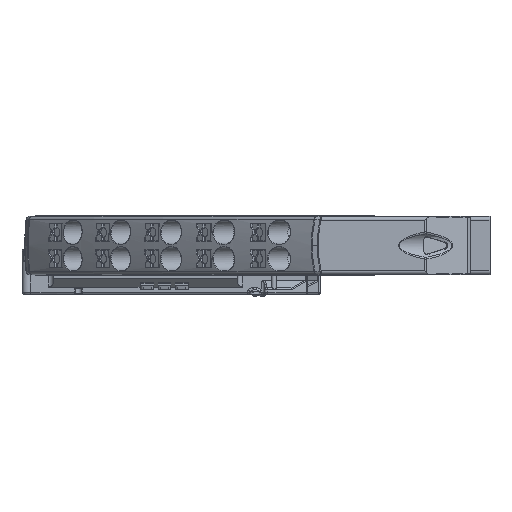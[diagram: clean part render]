
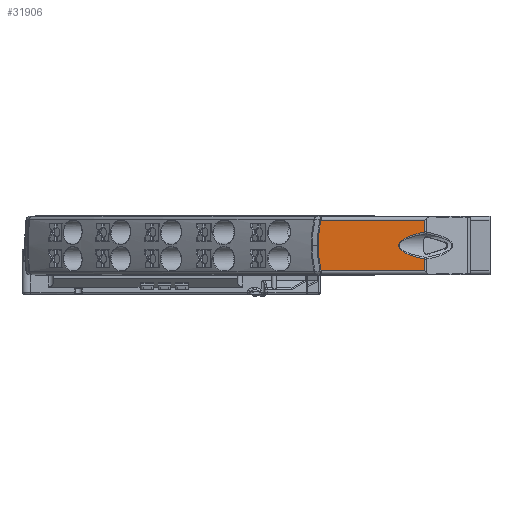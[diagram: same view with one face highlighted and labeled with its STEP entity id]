
A CAD part, left-side view. The second image highlights one B-rep face of the part: STEP entity #31906.
In plain terms, the highlighted planar face has unit normal (-1, 0, 0).
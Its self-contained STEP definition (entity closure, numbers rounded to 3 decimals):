
#733=CARTESIAN_POINT('',(-40.,7.214,-2.88));
#734=CARTESIAN_POINT('',(-40.,7.408,-2.843));
#735=CARTESIAN_POINT('',(-40.,7.779,-2.768));
#736=CARTESIAN_POINT('',(-40.,8.286,-2.654));
#737=CARTESIAN_POINT('',(-40.,8.749,-2.538));
#738=CARTESIAN_POINT('',(-40.,9.172,-2.422));
#739=CARTESIAN_POINT('',(-40.,9.554,-2.307));
#740=CARTESIAN_POINT('',(-40.,9.898,-2.194));
#741=CARTESIAN_POINT('',(-40.,10.209,-2.083));
#742=CARTESIAN_POINT('',(-40.,10.489,-1.974));
#743=CARTESIAN_POINT('',(-40.,10.739,-1.869));
#744=CARTESIAN_POINT('',(-40.,10.964,-1.767));
#745=CARTESIAN_POINT('',(-40.,11.165,-1.668));
#746=CARTESIAN_POINT('',(-40.,11.345,-1.573));
#747=CARTESIAN_POINT('',(-40.,11.505,-1.482));
#748=CARTESIAN_POINT('',(-40.,11.649,-1.394));
#749=CARTESIAN_POINT('',(-40.,11.778,-1.309));
#750=CARTESIAN_POINT('',(-40.,11.893,-1.227));
#751=CARTESIAN_POINT('',(-40.,11.996,-1.149));
#752=CARTESIAN_POINT('',(-40.,12.087,-1.073));
#753=CARTESIAN_POINT('',(-40.,12.169,-1.001));
#754=CARTESIAN_POINT('',(-40.,12.242,-0.931));
#755=CARTESIAN_POINT('',(-40.,12.306,-0.864));
#756=CARTESIAN_POINT('',(-40.,12.364,-0.799));
#757=CARTESIAN_POINT('',(-40.,12.414,-0.736));
#758=CARTESIAN_POINT('',(-40.,12.46,-0.676));
#759=CARTESIAN_POINT('',(-40.,12.5,-0.617));
#760=CARTESIAN_POINT('',(-40.,12.535,-0.56));
#761=CARTESIAN_POINT('',(-40.,12.566,-0.504));
#762=CARTESIAN_POINT('',(-40.,12.593,-0.45));
#763=CARTESIAN_POINT('',(-40.,12.616,-0.397));
#764=CARTESIAN_POINT('',(-40.,12.637,-0.345));
#765=CARTESIAN_POINT('',(-40.,12.653,-0.294));
#766=CARTESIAN_POINT('',(-40.,12.667,-0.244));
#767=CARTESIAN_POINT('',(-40.,12.679,-0.194));
#768=CARTESIAN_POINT('',(-40.,12.687,-0.145));
#769=CARTESIAN_POINT('',(-40.,12.693,-0.096));
#770=CARTESIAN_POINT('',(-40.,12.697,-0.048));
#771=CARTESIAN_POINT('',(-40.,12.698,0.));
#772=CARTESIAN_POINT('',(-40.,12.697,0.048));
#773=CARTESIAN_POINT('',(-40.,12.693,0.097));
#774=CARTESIAN_POINT('',(-40.,12.687,0.145));
#775=CARTESIAN_POINT('',(-40.,12.679,0.195));
#776=CARTESIAN_POINT('',(-40.,12.667,0.244));
#777=CARTESIAN_POINT('',(-40.,12.653,0.294));
#778=CARTESIAN_POINT('',(-40.,12.636,0.345));
#779=CARTESIAN_POINT('',(-40.,12.616,0.397));
#780=CARTESIAN_POINT('',(-40.,12.593,0.45));
#781=CARTESIAN_POINT('',(-40.,12.566,0.505));
#782=CARTESIAN_POINT('',(-40.,12.535,0.56));
#783=CARTESIAN_POINT('',(-40.,12.499,0.618));
#784=CARTESIAN_POINT('',(-40.,12.459,0.677));
#785=CARTESIAN_POINT('',(-40.,12.414,0.737));
#786=CARTESIAN_POINT('',(-40.,12.363,0.8));
#787=CARTESIAN_POINT('',(-40.,12.305,0.865));
#788=CARTESIAN_POINT('',(-40.,12.24,0.932));
#789=CARTESIAN_POINT('',(-40.,12.168,1.001));
#790=CARTESIAN_POINT('',(-40.,12.087,1.074));
#791=CARTESIAN_POINT('',(-40.,11.995,1.149));
#792=CARTESIAN_POINT('',(-40.,11.893,1.227));
#793=CARTESIAN_POINT('',(-40.,11.779,1.308));
#794=CARTESIAN_POINT('',(-40.,11.651,1.393));
#795=CARTESIAN_POINT('',(-40.,11.507,1.481));
#796=CARTESIAN_POINT('',(-40.,11.347,1.572));
#797=CARTESIAN_POINT('',(-40.,11.167,1.667));
#798=CARTESIAN_POINT('',(-40.,10.965,1.766));
#799=CARTESIAN_POINT('',(-40.,10.74,1.868));
#800=CARTESIAN_POINT('',(-40.,10.49,1.974));
#801=CARTESIAN_POINT('',(-40.,10.211,2.082));
#802=CARTESIAN_POINT('',(-40.,9.9,2.193));
#803=CARTESIAN_POINT('',(-40.,9.554,2.307));
#804=CARTESIAN_POINT('',(-40.,9.172,2.422));
#805=CARTESIAN_POINT('',(-40.,8.749,2.538));
#806=CARTESIAN_POINT('',(-40.,8.286,2.654));
#807=CARTESIAN_POINT('',(-40.,7.779,2.768));
#808=CARTESIAN_POINT('',(-40.,7.408,2.843));
#809=CARTESIAN_POINT('',(-40.,7.214,2.88));
#811=CARTESIAN_POINT('',(-40.,7.214,2.88));
#829=CARTESIAN_POINT('',(-40.,7.214,-2.88));
#960=DIRECTION('',(0.,0.,1.));
#961=VECTOR('',#960,2.47);
#962=CARTESIAN_POINT('',(-40.,7.214,2.88));
#963=LINE('',#962,#961);
#968=CARTESIAN_POINT('',(-40.,29.046,-5.35));
#969=CARTESIAN_POINT('',(-40.,29.125,-4.999));
#970=CARTESIAN_POINT('',(-40.,29.267,-4.294));
#971=CARTESIAN_POINT('',(-40.,29.434,-3.228));
#972=CARTESIAN_POINT('',(-40.,29.553,-2.156));
#973=CARTESIAN_POINT('',(-40.,29.625,-1.079));
#974=CARTESIAN_POINT('',(-40.,29.642,
-0.36));
#975=CARTESIAN_POINT('',(-40.,29.642,
0.));
#977=CARTESIAN_POINT('',(-40.,29.642,
0.));
#978=CARTESIAN_POINT('',(-40.,29.642,0.36));
#979=CARTESIAN_POINT('',(-40.,29.625,1.079));
#980=CARTESIAN_POINT('',(-40.,29.553,2.155));
#981=CARTESIAN_POINT('',(-40.,29.434,3.228));
#982=CARTESIAN_POINT('',(-40.,29.267,4.294));
#983=CARTESIAN_POINT('',(-40.,29.125,4.999));
#984=CARTESIAN_POINT('',(-40.,29.046,5.35));
#1007=DIRECTION('',(0.,1.,0.));
#1008=VECTOR('',#1007,21.831);
#1009=CARTESIAN_POINT('',(-40.,7.214,5.35));
#1010=LINE('',#1009,#1008);
#12774=DIRECTION('',(0.,-1.,0.));
#12775=VECTOR('',#12774,21.831);
#12776=CARTESIAN_POINT('',(-40.,29.046,
-5.35));
#12777=LINE('',#12776,#12775);
#12808=DIRECTION('',(0.,0.,1.));
#12809=VECTOR('',#12808,2.47);
#12810=CARTESIAN_POINT('',(-40.,7.214,-5.35));
#12811=LINE('',#12810,#12809);
#24763=VERTEX_POINT('',#811);
#24765=VERTEX_POINT('',#829);
#24803=CARTESIAN_POINT('',(-40.,7.214,5.35));
#24804=VERTEX_POINT('',#24803);
#24805=CARTESIAN_POINT('',(-40.,29.046,
5.35));
#24806=VERTEX_POINT('',#24805);
#24807=CARTESIAN_POINT('',(-40.,7.214,-5.35));
#24808=VERTEX_POINT('',#24807);
#24809=CARTESIAN_POINT('',(-40.,29.046,
-5.35));
#24810=VERTEX_POINT('',#24809);
#24811=VERTEX_POINT('',#975);
#31887=CARTESIAN_POINT('',(-40.,91.5,-6.15));
#31888=DIRECTION('',(-1.,0.,0.));
#31889=DIRECTION('',(0.,-1.,0.));
#31890=AXIS2_PLACEMENT_3D('',#31887,#31888,#31889);
#31891=PLANE('',#31890);
#31893=ORIENTED_EDGE('',*,*,#31892,.F.);
#31894=ORIENTED_EDGE('',*,*,#31879,.F.);
#31895=ORIENTED_EDGE('',*,*,#31503,.F.);
#31897=ORIENTED_EDGE('',*,*,#31896,.F.);
#31899=ORIENTED_EDGE('',*,*,#31898,.F.);
#31901=ORIENTED_EDGE('',*,*,#31900,.T.);
#31903=ORIENTED_EDGE('',*,*,#31902,.T.);
#31904=EDGE_LOOP('',(#31893,#31894,#31895,#31897,#31899,#31901,#31903));
#31905=FACE_OUTER_BOUND('',#31904,.F.);
#810=B_SPLINE_CURVE_WITH_KNOTS('',3,(#733,#734,#735,#736,#737,#738,#739,#740,
#741,#742,#743,#744,#745,#746,#747,#748,#749,#750,#751,#752,#753,#754,#755,#756,
#757,#758,#759,#760,#761,#762,#763,#764,#765,#766,#767,#768,#769,#770,#771,#772,
#773,#774,#775,#776,#777,#778,#779,#780,#781,#782,#783,#784,#785,#786,#787,#788,
#789,#790,#791,#792,#793,#794,#795,#796,#797,#798,#799,#800,#801,#802,#803,#804,
#805,#806,#807,#808,#809),.UNSPECIFIED.,.F.,.F.,(4,1,1,1,1,1,1,1,1,1,1,1,1,1,1,
1,1,1,1,1,1,1,1,1,1,1,1,1,1,1,1,1,1,1,1,1,1,1,1,1,1,1,1,1,1,1,1,1,1,1,1,1,1,1,1,
1,1,1,1,1,1,1,1,1,1,1,1,1,1,1,1,1,1,1,4),(0.,0.014,
0.027,0.041,0.054,0.068,
0.081,0.095,0.108,0.122,
0.135,0.149,0.162,0.176,
0.189,0.203,0.216,0.23,
0.243,0.257,0.27,0.284,
0.297,0.311,0.324,0.338,
0.351,0.365,0.378,0.392,
0.405,0.419,0.432,0.446,
0.459,0.473,0.486,0.5,0.514,
0.527,0.541,0.554,0.568,
0.581,0.595,0.608,0.622,
0.635,0.649,0.662,0.676,
0.689,0.703,0.716,0.73,
0.743,0.757,0.77,0.784,
0.797,0.811,0.824,0.838,
0.851,0.865,0.878,0.892,
0.905,0.919,0.932,0.946,
0.959,0.973,0.986,1.),.UNSPECIFIED.);
#976=B_SPLINE_CURVE_WITH_KNOTS('',3,(#968,#969,#970,#971,#972,#973,#974,#975),
.UNSPECIFIED.,.F.,.F.,(4,1,1,1,1,4),(0.,0.2,0.4,0.6,0.8,1.),
.UNSPECIFIED.);
#985=B_SPLINE_CURVE_WITH_KNOTS('',3,(#977,#978,#979,#980,#981,#982,#983,#984),
.UNSPECIFIED.,.F.,.F.,(4,1,1,1,1,4),(0.,0.2,0.4,0.6,0.8,1.),
.UNSPECIFIED.);
#31503=EDGE_CURVE('',#24765,#24763,#810,.T.);
#31879=EDGE_CURVE('',#24763,#24804,#963,.T.);
#31892=EDGE_CURVE('',#24804,#24806,#1010,.T.);
#31896=EDGE_CURVE('',#24808,#24765,#12811,.T.);
#31898=EDGE_CURVE('',#24810,#24808,#12777,.T.);
#31900=EDGE_CURVE('',#24810,#24811,#976,.T.);
#31902=EDGE_CURVE('',#24811,#24806,#985,.T.);
#31906=ADVANCED_FACE('',(#31905),#31891,.T.);
